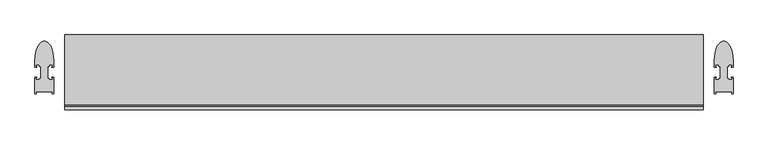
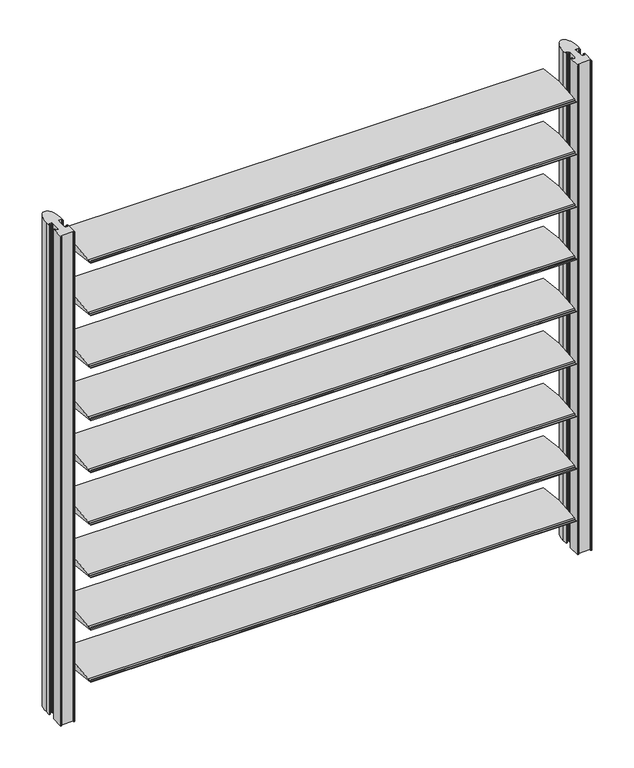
"""IFC4 building model written with IfcOpenShell, lengths in millimetres: proxy geometry, FSB_horizotal : FSB_horizotal_220."""

from ifc_helpers import new_model, si_unit, point, frame, frame_2d, origin, place, context, project, spatial, polyline, circle_curve, ellipse_curve, trimmed, segment, composite_curve, outline, extrude, source, transform, mapped, element, save
from ifc_brep_helpers import plane_surface, cylinder_surface, extruded_surface, advanced_brep


def generic_models_11b92442(model_context):
    return source(origin(), model_context, "Body", "SolidModel", [
        extrude(outline(composite_curve([segment(polyline([(-100.4881689, 176.846461), (-100.0769109, 178.7090621)]), True, "CONTINUOUS"), segment(trimmed(circle_curve(frame_2d((-95.1949955, 177.6311465)), 4.9995), [point((-100.0769109, 178.7090621))], [point((-96.1061666, 182.5469138))], False, "CARTESIAN"), True, "CONTINUOUS"), segment(trimmed(circle_curve(frame_2d((-2.31e-05, -335.9456199)), 527.3242819), [point((-96.1061666, 182.5469138))], [point((110.0445588, 179.7685338))], False, "CARTESIAN"), True, "CONTINUOUS"), segment(polyline([(110.0445588, 179.7685338), (109.5056968, 177.3280097)]), True, "CONTINUOUS"), segment(trimmed(circle_curve(frame_2d((0.6886, -337.0113999)), 525.7244419), [point((109.5056968, 177.3280097))], [point((100.4881227, 179.153539))], True, "CARTESIAN"), True, "CONTINUOUS"), segment(polyline([(100.4881227, 179.153539), (100.0768648, 177.2909379)]), True, "CONTINUOUS"), segment(trimmed(circle_curve(frame_2d((95.1949494, 178.3688535)), 4.9995), [point((100.0768648, 177.2909379))], [point((96.1061205, 173.4530862))], False, "CARTESIAN"), True, "CONTINUOUS"), segment(trimmed(circle_curve(frame_2d((-2.31e-05, 691.9456199)), 527.3242819), [point((96.1061205, 173.4530862))], [point((-110.044605, 176.2314662))], False, "CARTESIAN"), True, "CONTINUOUS"), segment(polyline([(-110.044605, 176.2314662), (-109.505743, 178.6719903)]), True, "CONTINUOUS"), segment(trimmed(circle_curve(frame_2d((-0.6886462, 693.0113999)), 525.7244419), [point((-109.505743, 178.6719903))], [point((-100.4881689, 176.846461))], True, "CARTESIAN"), True, "CONTINUOUS")], self_intersect=False)), frame((-939.5, 0.0, 0.0), z_axis=(1.0, 0.0, 0.0), x_axis=(0.0, 1.0, 0.0)), (0.0, 0.0, 1.0), 1879.0),
        extrude(outline(composite_curve([segment(polyline([(-100.4881689, 390.846461), (-100.0769109, 392.7090621)]), True, "CONTINUOUS"), segment(trimmed(circle_curve(frame_2d((-95.1949955, 391.6311465)), 4.9995), [point((-100.0769109, 392.7090621))], [point((-96.1061666, 396.5469138))], False, "CARTESIAN"), True, "CONTINUOUS"), segment(trimmed(circle_curve(frame_2d((-2.31e-05, -121.9456199)), 527.3242819), [point((-96.1061666, 396.5469138))], [point((110.0445588, 393.7685338))], False, "CARTESIAN"), True, "CONTINUOUS"), segment(polyline([(110.0445588, 393.7685338), (109.5056968, 391.3280097)]), True, "CONTINUOUS"), segment(trimmed(circle_curve(frame_2d((0.6886, -123.0113999)), 525.7244419), [point((109.5056968, 391.3280097))], [point((100.4881227, 393.153539))], True, "CARTESIAN"), True, "CONTINUOUS"), segment(polyline([(100.4881227, 393.153539), (100.0768648, 391.2909379)]), True, "CONTINUOUS"), segment(trimmed(circle_curve(frame_2d((95.1949494, 392.3688535)), 4.9995), [point((100.0768648, 391.2909379))], [point((96.1061205, 387.4530862))], False, "CARTESIAN"), True, "CONTINUOUS"), segment(trimmed(circle_curve(frame_2d((-2.31e-05, 905.9456199)), 527.3242819), [point((96.1061205, 387.4530862))], [point((-110.044605, 390.2314662))], False, "CARTESIAN"), True, "CONTINUOUS"), segment(polyline([(-110.044605, 390.2314662), (-109.505743, 392.6719903)]), True, "CONTINUOUS"), segment(trimmed(circle_curve(frame_2d((-0.6886462, 907.0113999)), 525.7244419), [point((-109.505743, 392.6719903))], [point((-100.4881689, 390.846461))], True, "CARTESIAN"), True, "CONTINUOUS")], self_intersect=False)), frame((-939.5, 0.0, 0.0), z_axis=(1.0, 0.0, 0.0), x_axis=(0.0, 1.0, 0.0)), (0.0, 0.0, 1.0), 1879.0),
        extrude(outline(composite_curve([segment(polyline([(-100.4881689, 604.846461), (-100.0769109, 606.7090621)]), True, "CONTINUOUS"), segment(trimmed(circle_curve(frame_2d((-95.1949955, 605.6311465)), 4.9995), [point((-100.0769109, 606.7090621))], [point((-96.1061666, 610.5469138))], False, "CARTESIAN"), True, "CONTINUOUS"), segment(trimmed(circle_curve(frame_2d((-2.31e-05, 92.0543801)), 527.3242819), [point((-96.1061666, 610.5469138))], [point((110.0445588, 607.7685338))], False, "CARTESIAN"), True, "CONTINUOUS"), segment(polyline([(110.0445588, 607.7685338), (109.5056968, 605.3280097)]), True, "CONTINUOUS"), segment(trimmed(circle_curve(frame_2d((0.6886, 90.9886001)), 525.7244419), [point((109.5056968, 605.3280097))], [point((100.4881227, 607.153539))], True, "CARTESIAN"), True, "CONTINUOUS"), segment(polyline([(100.4881227, 607.153539), (100.0768648, 605.2909379)]), True, "CONTINUOUS"), segment(trimmed(circle_curve(frame_2d((95.1949494, 606.3688535)), 4.9995), [point((100.0768648, 605.2909379))], [point((96.1061205, 601.4530862))], False, "CARTESIAN"), True, "CONTINUOUS"), segment(trimmed(circle_curve(frame_2d((-2.31e-05, 1119.9456199)), 527.3242819), [point((96.1061205, 601.4530862))], [point((-110.044605, 604.2314662))], False, "CARTESIAN"), True, "CONTINUOUS"), segment(polyline([(-110.044605, 604.2314662), (-109.505743, 606.6719903)]), True, "CONTINUOUS"), segment(trimmed(circle_curve(frame_2d((-0.6886462, 1121.0113999)), 525.7244419), [point((-109.505743, 606.6719903))], [point((-100.4881689, 604.846461))], True, "CARTESIAN"), True, "CONTINUOUS")], self_intersect=False)), frame((-939.5, 0.0, 0.0), z_axis=(1.0, 0.0, 0.0), x_axis=(0.0, 1.0, 0.0)), (0.0, 0.0, 1.0), 1879.0),
        extrude(outline(composite_curve([segment(polyline([(-100.4881689, 818.846461), (-100.0769109, 820.7090621)]), True, "CONTINUOUS"), segment(trimmed(circle_curve(frame_2d((-95.1949955, 819.6311465)), 4.9995), [point((-100.0769109, 820.7090621))], [point((-96.1061666, 824.5469138))], False, "CARTESIAN"), True, "CONTINUOUS"), segment(trimmed(circle_curve(frame_2d((-2.31e-05, 306.0543801)), 527.3242819), [point((-96.1061666, 824.5469138))], [point((110.0445588, 821.7685338))], False, "CARTESIAN"), True, "CONTINUOUS"), segment(polyline([(110.0445588, 821.7685338), (109.5056968, 819.3280097)]), True, "CONTINUOUS"), segment(trimmed(circle_curve(frame_2d((0.6886, 304.9886001)), 525.7244419), [point((109.5056968, 819.3280097))], [point((100.4881227, 821.153539))], True, "CARTESIAN"), True, "CONTINUOUS"), segment(polyline([(100.4881227, 821.153539), (100.0768648, 819.2909379)]), True, "CONTINUOUS"), segment(trimmed(circle_curve(frame_2d((95.1949494, 820.3688535)), 4.9995), [point((100.0768648, 819.2909379))], [point((96.1061205, 815.4530862))], False, "CARTESIAN"), True, "CONTINUOUS"), segment(trimmed(circle_curve(frame_2d((-2.31e-05, 1333.9456199)), 527.3242819), [point((96.1061205, 815.4530862))], [point((-110.044605, 818.2314662))], False, "CARTESIAN"), True, "CONTINUOUS"), segment(polyline([(-110.044605, 818.2314662), (-109.505743, 820.6719903)]), True, "CONTINUOUS"), segment(trimmed(circle_curve(frame_2d((-0.6886462, 1335.0113999)), 525.7244419), [point((-109.505743, 820.6719903))], [point((-100.4881689, 818.846461))], True, "CARTESIAN"), True, "CONTINUOUS")], self_intersect=False)), frame((-939.5, 0.0, 0.0), z_axis=(1.0, 0.0, 0.0), x_axis=(0.0, 1.0, 0.0)), (0.0, 0.0, 1.0), 1879.0),
        extrude(outline(composite_curve([segment(polyline([(-100.4881689, 1032.846461), (-100.0769109, 1034.7090621)]), True, "CONTINUOUS"), segment(trimmed(circle_curve(frame_2d((-95.1949955, 1033.6311465)), 4.9995), [point((-100.0769109, 1034.7090621))], [point((-96.1061666, 1038.5469138))], False, "CARTESIAN"), True, "CONTINUOUS"), segment(trimmed(circle_curve(frame_2d((-2.31e-05, 520.0543801)), 527.3242819), [point((-96.1061666, 1038.5469138))], [point((110.0445588, 1035.7685338))], False, "CARTESIAN"), True, "CONTINUOUS"), segment(polyline([(110.0445588, 1035.7685338), (109.5056968, 1033.3280097)]), True, "CONTINUOUS"), segment(trimmed(circle_curve(frame_2d((0.6886, 518.9886001)), 525.7244419), [point((109.5056968, 1033.3280097))], [point((100.4881227, 1035.153539))], True, "CARTESIAN"), True, "CONTINUOUS"), segment(polyline([(100.4881227, 1035.153539), (100.0768648, 1033.2909379)]), True, "CONTINUOUS"), segment(trimmed(circle_curve(frame_2d((95.1949494, 1034.3688535)), 4.9995), [point((100.0768648, 1033.2909379))], [point((96.1061205, 1029.4530862))], False, "CARTESIAN"), True, "CONTINUOUS"), segment(trimmed(circle_curve(frame_2d((-2.31e-05, 1547.9456199)), 527.3242819), [point((96.1061205, 1029.4530862))], [point((-110.044605, 1032.2314662))], False, "CARTESIAN"), True, "CONTINUOUS"), segment(polyline([(-110.044605, 1032.2314662), (-109.505743, 1034.6719903)]), True, "CONTINUOUS"), segment(trimmed(circle_curve(frame_2d((-0.6886462, 1549.0113999)), 525.7244419), [point((-109.505743, 1034.6719903))], [point((-100.4881689, 1032.846461))], True, "CARTESIAN"), True, "CONTINUOUS")], self_intersect=False)), frame((-939.5, 0.0, 0.0), z_axis=(1.0, 0.0, 0.0), x_axis=(0.0, 1.0, 0.0)), (0.0, 0.0, 1.0), 1879.0),
        extrude(outline(composite_curve([segment(polyline([(-100.4881689, 1246.846461), (-100.0769109, 1248.7090621)]), True, "CONTINUOUS"), segment(trimmed(circle_curve(frame_2d((-95.1949955, 1247.6311465)), 4.9995), [point((-100.0769109, 1248.7090621))], [point((-96.1061666, 1252.5469138))], False, "CARTESIAN"), True, "CONTINUOUS"), segment(trimmed(circle_curve(frame_2d((-2.31e-05, 734.0543801)), 527.3242819), [point((-96.1061666, 1252.5469138))], [point((110.0445588, 1249.7685338))], False, "CARTESIAN"), True, "CONTINUOUS"), segment(polyline([(110.0445588, 1249.7685338), (109.5056968, 1247.3280097)]), True, "CONTINUOUS"), segment(trimmed(circle_curve(frame_2d((0.6886, 732.9886001)), 525.7244419), [point((109.5056968, 1247.3280097))], [point((100.4881227, 1249.153539))], True, "CARTESIAN"), True, "CONTINUOUS"), segment(polyline([(100.4881227, 1249.153539), (100.0768648, 1247.2909379)]), True, "CONTINUOUS"), segment(trimmed(circle_curve(frame_2d((95.1949494, 1248.3688535)), 4.9995), [point((100.0768648, 1247.2909379))], [point((96.1061205, 1243.4530862))], False, "CARTESIAN"), True, "CONTINUOUS"), segment(trimmed(circle_curve(frame_2d((-2.31e-05, 1761.9456199)), 527.3242819), [point((96.1061205, 1243.4530862))], [point((-110.044605, 1246.2314662))], False, "CARTESIAN"), True, "CONTINUOUS"), segment(polyline([(-110.044605, 1246.2314662), (-109.505743, 1248.6719903)]), True, "CONTINUOUS"), segment(trimmed(circle_curve(frame_2d((-0.6886462, 1763.0113999)), 525.7244419), [point((-109.505743, 1248.6719903))], [point((-100.4881689, 1246.846461))], True, "CARTESIAN"), True, "CONTINUOUS")], self_intersect=False)), frame((-939.5, 0.0, 0.0), z_axis=(1.0, 0.0, 0.0), x_axis=(0.0, 1.0, 0.0)), (0.0, 0.0, 1.0), 1879.0),
        extrude(outline(composite_curve([segment(polyline([(-100.4881689, 1460.846461), (-100.0769109, 1462.7090621)]), True, "CONTINUOUS"), segment(trimmed(circle_curve(frame_2d((-95.1949955, 1461.6311465)), 4.9995), [point((-100.0769109, 1462.7090621))], [point((-96.1061666, 1466.5469138))], False, "CARTESIAN"), True, "CONTINUOUS"), segment(trimmed(circle_curve(frame_2d((-2.31e-05, 948.0543801)), 527.3242819), [point((-96.1061666, 1466.5469138))], [point((110.0445588, 1463.7685338))], False, "CARTESIAN"), True, "CONTINUOUS"), segment(polyline([(110.0445588, 1463.7685338), (109.5056968, 1461.3280097)]), True, "CONTINUOUS"), segment(trimmed(circle_curve(frame_2d((0.6886, 946.9886001)), 525.7244419), [point((109.5056968, 1461.3280097))], [point((100.4881227, 1463.153539))], True, "CARTESIAN"), True, "CONTINUOUS"), segment(polyline([(100.4881227, 1463.153539), (100.0768648, 1461.2909379)]), True, "CONTINUOUS"), segment(trimmed(circle_curve(frame_2d((95.1949494, 1462.3688535)), 4.9995), [point((100.0768648, 1461.2909379))], [point((96.1061205, 1457.4530862))], False, "CARTESIAN"), True, "CONTINUOUS"), segment(trimmed(circle_curve(frame_2d((-2.31e-05, 1975.9456199)), 527.3242819), [point((96.1061205, 1457.4530862))], [point((-110.044605, 1460.2314662))], False, "CARTESIAN"), True, "CONTINUOUS"), segment(polyline([(-110.044605, 1460.2314662), (-109.505743, 1462.6719903)]), True, "CONTINUOUS"), segment(trimmed(circle_curve(frame_2d((-0.6886462, 1977.0113999)), 525.7244419), [point((-109.505743, 1462.6719903))], [point((-100.4881689, 1460.846461))], True, "CARTESIAN"), True, "CONTINUOUS")], self_intersect=False)), frame((-939.5, 0.0, 0.0), z_axis=(1.0, 0.0, 0.0), x_axis=(0.0, 1.0, 0.0)), (0.0, 0.0, 1.0), 1879.0),
        extrude(outline(composite_curve([segment(polyline([(-100.4881689, 1674.846461), (-100.0769109, 1676.7090621)]), True, "CONTINUOUS"), segment(trimmed(circle_curve(frame_2d((-95.1949955, 1675.6311465)), 4.9995), [point((-100.0769109, 1676.7090621))], [point((-96.1061666, 1680.5469138))], False, "CARTESIAN"), True, "CONTINUOUS"), segment(trimmed(circle_curve(frame_2d((-2.31e-05, 1162.0543801)), 527.3242819), [point((-96.1061666, 1680.5469138))], [point((110.0445588, 1677.7685338))], False, "CARTESIAN"), True, "CONTINUOUS"), segment(polyline([(110.0445588, 1677.7685338), (109.5056968, 1675.3280097)]), True, "CONTINUOUS"), segment(trimmed(circle_curve(frame_2d((0.6886, 1160.9886001)), 525.7244419), [point((109.5056968, 1675.3280097))], [point((100.4881227, 1677.153539))], True, "CARTESIAN"), True, "CONTINUOUS"), segment(polyline([(100.4881227, 1677.153539), (100.0768648, 1675.2909379)]), True, "CONTINUOUS"), segment(trimmed(circle_curve(frame_2d((95.1949494, 1676.3688535)), 4.9995), [point((100.0768648, 1675.2909379))], [point((96.1061205, 1671.4530862))], False, "CARTESIAN"), True, "CONTINUOUS"), segment(trimmed(circle_curve(frame_2d((-2.31e-05, 2189.9456199)), 527.3242819), [point((96.1061205, 1671.4530862))], [point((-110.044605, 1674.2314662))], False, "CARTESIAN"), True, "CONTINUOUS"), segment(polyline([(-110.044605, 1674.2314662), (-109.505743, 1676.6719903)]), True, "CONTINUOUS"), segment(trimmed(circle_curve(frame_2d((-0.6886462, 2191.0113999)), 525.7244419), [point((-109.505743, 1676.6719903))], [point((-100.4881689, 1674.846461))], True, "CARTESIAN"), True, "CONTINUOUS")], self_intersect=False)), frame((-939.5, 0.0, 0.0), z_axis=(1.0, 0.0, 0.0), x_axis=(0.0, 1.0, 0.0)), (0.0, 0.0, 1.0), 1879.0),
        extrude(outline(composite_curve([segment(polyline([(-100.4881689, 1888.846461), (-100.0769109, 1890.7090621)]), True, "CONTINUOUS"), segment(trimmed(circle_curve(frame_2d((-95.1949955, 1889.6311465)), 4.9995), [point((-100.0769109, 1890.7090621))], [point((-96.1061666, 1894.5469138))], False, "CARTESIAN"), True, "CONTINUOUS"), segment(trimmed(circle_curve(frame_2d((-2.31e-05, 1376.0543801)), 527.3242819), [point((-96.1061666, 1894.5469138))], [point((110.0445588, 1891.7685338))], False, "CARTESIAN"), True, "CONTINUOUS"), segment(polyline([(110.0445588, 1891.7685338), (109.5056968, 1889.3280097)]), True, "CONTINUOUS"), segment(trimmed(circle_curve(frame_2d((0.6886, 1374.9886001)), 525.7244419), [point((109.5056968, 1889.3280097))], [point((100.4881227, 1891.153539))], True, "CARTESIAN"), True, "CONTINUOUS"), segment(polyline([(100.4881227, 1891.153539), (100.0768648, 1889.2909379)]), True, "CONTINUOUS"), segment(trimmed(circle_curve(frame_2d((95.1949494, 1890.3688535)), 4.9995), [point((100.0768648, 1889.2909379))], [point((96.1061205, 1885.4530862))], False, "CARTESIAN"), True, "CONTINUOUS"), segment(trimmed(circle_curve(frame_2d((-2.31e-05, 2403.9456199)), 527.3242819), [point((96.1061205, 1885.4530862))], [point((-110.044605, 1888.2314662))], False, "CARTESIAN"), True, "CONTINUOUS"), segment(polyline([(-110.044605, 1888.2314662), (-109.505743, 1890.6719903)]), True, "CONTINUOUS"), segment(trimmed(circle_curve(frame_2d((-0.6886462, 2405.0113999)), 525.7244419), [point((-109.505743, 1890.6719903))], [point((-100.4881689, 1888.846461))], True, "CARTESIAN"), True, "CONTINUOUS")], self_intersect=False)), frame((-939.5, 0.0, 0.0), z_axis=(1.0, 0.0, 0.0), x_axis=(0.0, 1.0, 0.0)), (0.0, 0.0, 1.0), 1879.0),
        advanced_brep(
        [(972.5005731, 35.515, 0.0), (1027.5000975, 35.515, 0.0), (1027.5000975, 14.55, 0.0), (1022.4, 14.55, 0.0), (1022.4, 16.55, 0.0), (1024.5000975, 16.55, 0.0), (1025.5000975, 17.55, 0.0), (1025.5000975, 22.175, 0.0), (1014.05, 22.175, 0.0), (1014.05, 18.5225, 0.0), (1011.0, 18.5225, 0.0), (1011.0, -18.5225, 0.0), (1014.05, -18.5225, 0.0), (1014.05, -22.175, 0.0), (1025.3000975, -22.175, 0.0), (1025.3000975, -17.55, 0.0), (1024.3000975, -16.55, 0.0), (1022.4, -16.55, 0.0), (1022.4, -14.55, 0.0), (1027.5000975, -14.55, 0.0), (1027.5000975, -63.0727525, 0.0), (1024.0000975, -63.0727525, 0.0), (1023.0000975, -62.0727525, 0.0), (1023.0000975, -60.5727525, 0.0), (1025.0000975, -60.5727525, 0.0), (1025.0000975, -57.5727525, 0.0), (974.9999025, -57.5727525, 0.0), (974.9999025, -60.5727525, 0.0), (976.9999025, -60.5727525, 0.0), (976.9999025, -62.0727525, 0.0), (975.9999025, -63.0727525, 0.0), (972.4999025, -63.0727525, 0.0), (972.4999025, -14.55, 0.0), (977.6, -14.55, 0.0), (977.6, -16.55, 0.0), (975.6999025, -16.55, 0.0), (974.6999025, -17.55, 0.0), (974.6999025, -22.175, 0.0), (985.95, -22.175, 0.0), (985.95, -18.5225, 0.0), (989.0, -18.5225, 0.0), (989.0, 18.5225, 0.0), (985.95, 18.5225, 0.0), (985.95, 22.175, 0.0), (974.4999025, 22.175, 0.0), (974.4999025, 17.55, 0.0), (975.4999025, 16.55, 0.0), (977.6, 16.55, 0.0), (977.6, 14.55, 0.0), (972.5005731, 14.55, 0.0), (972.5005731, 35.515, 2000.0), (972.5005731, 14.55, 2000.0), (977.6, 14.55, 2000.0), (977.6, 16.55, 2000.0), (975.4999025, 16.55, 2000.0), (974.4999025, 17.55, 2000.0), (974.4999025, 22.175, 2000.0), (985.95, 22.175, 2000.0), (985.95, 18.5225, 2000.0), (989.0, 18.5225, 2000.0), (989.0, -18.5225, 2000.0), (985.95, -18.5225, 2000.0), (985.95, -22.175, 2000.0), (974.6999025, -22.175, 2000.0), (974.6999025, -17.55, 2000.0), (975.6999025, -16.55, 2000.0), (977.6, -16.55, 2000.0), (977.6, -14.55, 2000.0), (972.4999025, -14.55, 2000.0), (972.4999025, -63.0727525, 2000.0), (975.9999025, -63.0727525, 2000.0), (976.9999025, -62.0727525, 2000.0), (976.9999025, -60.5727525, 2000.0), (974.9999025, -60.5727525, 2000.0), (974.9999025, -57.5727525, 2000.0), (1025.0000975, -57.5727525, 2000.0), (1025.0000975, -60.5727525, 2000.0), (1023.0000975, -60.5727525, 2000.0), (1023.0000975, -62.0727525, 2000.0), (1024.0000975, -63.0727525, 2000.0), (1027.5000975, -63.0727525, 2000.0), (1027.5000975, -14.55, 2000.0), (1022.4, -14.55, 2000.0), (1022.4, -16.55, 2000.0), (1024.3000975, -16.55, 2000.0), (1025.3000975, -17.55, 2000.0), (1025.3000975, -22.175, 2000.0), (1014.05, -22.175, 2000.0), (1014.05, -18.5225, 2000.0), (1011.0, -18.5225, 2000.0), (1011.0, 18.5225, 2000.0), (1014.05, 18.5225, 2000.0), (1014.05, 22.175, 2000.0), (1025.5000975, 22.175, 2000.0), (1025.5000975, 17.55, 2000.0), (1024.5000975, 16.55, 2000.0), (1022.4, 16.55, 2000.0), (1022.4, 14.55, 2000.0), (1027.5000975, 14.55, 2000.0), (1027.5000975, 35.515, 2000.0)],
        [
            (0, 1, ellipse_curve(frame((1000.0003353, 35.515, 0.0), z_axis=(0.0, 0.0, -1.0), x_axis=(0.0, 1.0, 0.0)), 56.4122475, 27.4997622)),
            (1, 2),
            (2, 3),
            (3, 4),
            (4, 5),
            (5, 6),
            (6, 7),
            (7, 8),
            (8, 9),
            (9, 10),
            (10, 11),
            (11, 12),
            (12, 13),
            (13, 14),
            (14, 15),
            (15, 16),
            (16, 17),
            (17, 18),
            (18, 19),
            (19, 20),
            (20, 21),
            (21, 22, circle_curve(frame((1024.0000975, -62.0727525, 0.0), z_axis=(0.0, 0.0, -1.0), x_axis=(-1.0, 0.0, 0.0)), 1.0)),
            (22, 23),
            (23, 24),
            (24, 25),
            (25, 26),
            (26, 27),
            (27, 28),
            (28, 29),
            (29, 30, circle_curve(frame((975.9999025, -62.0727525, 0.0), z_axis=(0.0, 0.0, -1.0), x_axis=(0.0, -1.0, 0.0)), 1.0)),
            (30, 31),
            (31, 32),
            (32, 33),
            (33, 34),
            (34, 35),
            (35, 36),
            (36, 37),
            (37, 38),
            (38, 39),
            (39, 40),
            (40, 41),
            (41, 42),
            (42, 43),
            (43, 44),
            (44, 45),
            (45, 46),
            (46, 47),
            (47, 48),
            (48, 49),
            (49, 0),
            (50, 51),
            (51, 52),
            (52, 53),
            (53, 54),
            (54, 55),
            (55, 56),
            (56, 57),
            (57, 58),
            (58, 59),
            (59, 60),
            (60, 61),
            (61, 62),
            (62, 63),
            (63, 64),
            (64, 65),
            (65, 66),
            (66, 67),
            (67, 68),
            (68, 69),
            (69, 70),
            (70, 71, circle_curve(frame((975.9999025, -62.0727525, 2000.0), z_axis=(0.0, 0.0, 1.0), x_axis=(0.0, -1.0, 0.0)), 1.0)),
            (71, 72),
            (72, 73),
            (73, 74),
            (74, 75),
            (75, 76),
            (76, 77),
            (77, 78),
            (78, 79, circle_curve(frame((1024.0000975, -62.0727525, 2000.0), z_axis=(0.0, 0.0, 1.0), x_axis=(-1.0, 0.0, 0.0)), 1.0)),
            (79, 80),
            (80, 81),
            (81, 82),
            (82, 83),
            (83, 84),
            (84, 85),
            (85, 86),
            (86, 87),
            (87, 88),
            (88, 89),
            (89, 90),
            (90, 91),
            (91, 92),
            (92, 93),
            (93, 94),
            (94, 95),
            (95, 96),
            (96, 97),
            (97, 98),
            (98, 99),
            (99, 50, ellipse_curve(frame((1000.0003353, 35.515, 2000.0), z_axis=(0.0, 0.0, 1.0), x_axis=(0.0, 1.0, 0.0)), 56.4122475, 27.4997622)),
            (0, 50),
            (99, 1),
            (98, 2),
            (97, 3),
            (96, 4),
            (95, 5),
            (94, 6),
            (93, 7),
            (92, 8),
            (91, 9),
            (90, 10),
            (89, 11),
            (88, 12),
            (87, 13),
            (86, 14),
            (85, 15),
            (84, 16),
            (83, 17),
            (82, 18),
            (81, 19),
            (80, 20),
            (79, 21),
            (78, 22),
            (77, 23),
            (76, 24),
            (75, 25),
            (74, 26),
            (73, 27),
            (72, 28),
            (71, 29),
            (70, 30),
            (69, 31),
            (68, 32),
            (67, 33),
            (66, 34),
            (65, 35),
            (64, 36),
            (63, 37),
            (62, 38),
            (61, 39),
            (60, 40),
            (59, 41),
            (58, 42),
            (57, 43),
            (56, 44),
            (55, 45),
            (54, 46),
            (53, 47),
            (52, 48),
            (51, 49),
        ],
        [
            plane_surface(frame((1000.0, 0.0, 0.0), z_axis=(0.0, 0.0, -1.0), x_axis=(0.0, -1.0, 0.0))),
            plane_surface(frame((1000.0, 0.0, 2000.0), z_axis=(0.0, 0.0, 1.0), x_axis=(0.0, -1.0, 0.0))),
            extruded_surface(trimmed(ellipse_curve(frame((1000.0003353, 35.515, 2000.0), z_axis=(0.0, 0.0, -1.0), x_axis=(0.0, 1.0, 0.0)), 56.4122475, 27.4997622), [point((972.5005731, 35.515, 2000.0))], [point((1027.5000975, 35.515, 2000.0))], True, "CARTESIAN"), (0.0, 0.0, -2000.0), 2000.0),
            plane_surface(frame((1027.5000975, 35.515, 0.0), z_axis=(1.0, 0.0, 0.0), x_axis=(0.0, 0.0, 1.0))),
            plane_surface(frame((1027.5000975, 14.55, 0.0), z_axis=(0.0, -1.0, 0.0), x_axis=(0.0, 0.0, 1.0))),
            plane_surface(frame((1022.4, 14.55, 0.0), z_axis=(-1.0, 0.0, 0.0), x_axis=(0.0, 0.0, 1.0))),
            plane_surface(frame((1022.4, 16.55, 0.0), z_axis=(0.0, 1.0, 0.0), x_axis=(0.0, 0.0, 1.0))),
            plane_surface(frame((1024.5000975, 16.55, 0.0), z_axis=(-0.707106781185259, 0.707106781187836, 0.0), x_axis=(0.0, 0.0, 1.0))),
            plane_surface(frame((1025.5000975, 17.55, 0.0), z_axis=(-1.0, 0.0, 0.0), x_axis=(0.0, 0.0, 1.0))),
            plane_surface(frame((1025.5000975, 22.175, 0.0), z_axis=(0.0, -1.0, 0.0), x_axis=(0.0, 0.0, 1.0))),
            plane_surface(frame((1014.05, 22.175, 0.0), z_axis=(1.0, 0.0, 0.0), x_axis=(0.0, 0.0, 1.0))),
            plane_surface(frame((1014.05, 18.5225, 0.0), z_axis=(0.0, -1.0, 0.0), x_axis=(0.0, 0.0, 1.0))),
            plane_surface(frame((1011.0, 18.5225, 0.0), z_axis=(1.0, 0.0, 0.0), x_axis=(0.0, 0.0, 1.0))),
            plane_surface(frame((1011.0, -18.5225, 0.0), z_axis=(0.0, 1.0, 0.0), x_axis=(0.0, 0.0, 1.0))),
            plane_surface(frame((1014.05, -18.5225, 0.0), z_axis=(1.0, 0.0, 0.0), x_axis=(0.0, 0.0, 1.0))),
            plane_surface(frame((1014.05, -22.175, 0.0), z_axis=(0.0, 1.0, 0.0), x_axis=(0.0, 0.0, 1.0))),
            plane_surface(frame((1025.3000975, -22.175, 0.0), z_axis=(-1.0, 0.0, 0.0), x_axis=(0.0, 0.0, 1.0))),
            plane_surface(frame((1025.3000975, -17.55, 0.0), z_axis=(-0.7071067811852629, -0.7071067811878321, 0.0), x_axis=(0.0, 0.0, 1.0))),
            plane_surface(frame((1024.3000975, -16.55, 0.0), z_axis=(0.0, -1.0, 0.0), x_axis=(0.0, 0.0, 1.0))),
            plane_surface(frame((1022.4, -16.55, 0.0), z_axis=(-1.0, 0.0, 0.0), x_axis=(0.0, 0.0, 1.0))),
            plane_surface(frame((1022.4, -14.55, 0.0), z_axis=(0.0, 1.0, 0.0), x_axis=(0.0, 0.0, 1.0))),
            plane_surface(frame((1027.5000975, -14.55, 0.0), z_axis=(1.0, 0.0, 0.0), x_axis=(0.0, 0.0, 1.0))),
            plane_surface(frame((1027.5000975, -63.0727525, 0.0), z_axis=(0.0, -1.0, 0.0), x_axis=(0.0, 0.0, 1.0))),
            cylinder_surface(frame((1024.0000975, -62.0727525, 0.0), z_axis=(0.0, 0.0, -1.0), x_axis=(-1.0, 0.0, 0.0)), 1.0),
            plane_surface(frame((1023.0000975, -62.0727525, 0.0), z_axis=(-1.0, 0.0, 0.0), x_axis=(0.0, 0.0, 1.0))),
            plane_surface(frame((1023.0000975, -60.5727525, 0.0), z_axis=(0.0, 1.0, 0.0), x_axis=(0.0, 0.0, 1.0))),
            plane_surface(frame((1025.0000975, -60.5727525, 0.0), z_axis=(-1.0, 0.0, 0.0), x_axis=(0.0, 0.0, 1.0))),
            plane_surface(frame((1025.0000975, -57.5727525, 0.0), z_axis=(0.0, -1.0, 0.0), x_axis=(0.0, 0.0, 1.0))),
            plane_surface(frame((974.9999025, -57.5727525, 0.0), z_axis=(1.0, 0.0, 0.0), x_axis=(0.0, 0.0, 1.0))),
            plane_surface(frame((974.9999025, -60.5727525, 0.0), z_axis=(0.0, 1.0, 0.0), x_axis=(0.0, 0.0, 1.0))),
            plane_surface(frame((976.9999025, -60.5727525, 0.0), z_axis=(1.0, 0.0, 0.0), x_axis=(0.0, 0.0, 1.0))),
            cylinder_surface(frame((975.9999025, -62.0727525, 0.0), z_axis=(0.0, 0.0, -1.0), x_axis=(0.0, -1.0, 0.0)), 1.0),
            plane_surface(frame((975.9999025, -63.0727525, 0.0), z_axis=(0.0, -1.0, 0.0), x_axis=(0.0, 0.0, 1.0))),
            plane_surface(frame((972.4999025, -63.0727525, 0.0), z_axis=(-1.0, 0.0, 0.0), x_axis=(0.0, 0.0, 1.0))),
            plane_surface(frame((972.4999025, -14.55, 0.0), z_axis=(0.0, 1.0, 0.0), x_axis=(0.0, 0.0, 1.0))),
            plane_surface(frame((977.6, -14.55, 0.0), z_axis=(1.0, 0.0, 0.0), x_axis=(0.0, 0.0, 1.0))),
            plane_surface(frame((977.6, -16.55, 0.0), z_axis=(0.0, -1.0, 0.0), x_axis=(0.0, 0.0, 1.0))),
            plane_surface(frame((975.6999025, -16.55, 0.0), z_axis=(0.7071067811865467, -0.7071067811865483, 0.0), x_axis=(0.0, 0.0, 1.0))),
            plane_surface(frame((974.6999025, -17.55, 0.0), z_axis=(1.0, 0.0, 0.0), x_axis=(0.0, 0.0, 1.0))),
            plane_surface(frame((974.6999025, -22.175, 0.0), z_axis=(0.0, 1.0, 0.0), x_axis=(0.0, 0.0, 1.0))),
            plane_surface(frame((985.95, -22.175, 0.0), z_axis=(-1.0, 0.0, 0.0), x_axis=(0.0, 0.0, 1.0))),
            plane_surface(frame((985.95, -18.5225, 0.0), z_axis=(0.0, 1.0, 0.0), x_axis=(0.0, 0.0, 1.0))),
            plane_surface(frame((989.0, -18.5225, 0.0), z_axis=(-1.0, 0.0, 0.0), x_axis=(0.0, 0.0, 1.0))),
            plane_surface(frame((989.0, 18.5225, 0.0), z_axis=(0.0, -1.0, 0.0), x_axis=(0.0, 0.0, 1.0))),
            plane_surface(frame((985.95, 18.5225, 0.0), z_axis=(-1.0, 0.0, 0.0), x_axis=(0.0, 0.0, 1.0))),
            plane_surface(frame((985.95, 22.175, 0.0), z_axis=(0.0, -1.0, 0.0), x_axis=(0.0, 0.0, 1.0))),
            plane_surface(frame((974.4999025, 22.175, 0.0), z_axis=(1.0, 0.0, 0.0), x_axis=(0.0, 0.0, 1.0))),
            plane_surface(frame((974.4999025, 17.55, 0.0), z_axis=(0.7071067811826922, 0.7071067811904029, 0.0), x_axis=(0.0, 0.0, 1.0))),
            plane_surface(frame((975.4999025, 16.55, 0.0), z_axis=(0.0, 1.0, 0.0), x_axis=(0.0, 0.0, 1.0))),
            plane_surface(frame((977.6, 16.55, 0.0), z_axis=(1.0, 0.0, 0.0), x_axis=(0.0, 0.0, 1.0))),
            plane_surface(frame((977.6, 14.55, 0.0), z_axis=(0.0, -1.0, 0.0), x_axis=(0.0, 0.0, 1.0))),
            plane_surface(frame((972.5005731, 14.55, 0.0), z_axis=(-1.0, 0.0, 0.0), x_axis=(0.0, 0.0, 1.0))),
        ],
        [
            (0, [[1, 2, 3, 4, 5, 6, 7, 8, 9, 10, 11, 12, 13, 14, 15, 16, 17, 18, 19, 20, 21, 22, 23, 24, 25, 26, 27, 28, 29, 30, 31, 32, 33, 34, 35, 36, 37, 38, 39, 40, 41, 42, 43, 44, 45, 46, 47, 48, 49, 50]]),
            (1, [[51, 52, 53, 54, 55, 56, 57, 58, 59, 60, 61, 62, 63, 64, 65, 66, 67, 68, 69, 70, 71, 72, 73, 74, 75, 76, 77, 78, 79, 80, 81, 82, 83, 84, 85, 86, 87, 88, 89, 90, 91, 92, 93, 94, 95, 96, 97, 98, 99, 100]]),
            (2, [[-1, 101, -100, 102]]),
            (3, [[-2, -102, -99, 103]]),
            (4, [[-3, -103, -98, 104]]),
            (5, [[-4, -104, -97, 105]]),
            (6, [[-5, -105, -96, 106]]),
            (7, [[-6, -106, -95, 107]]),
            (8, [[-7, -107, -94, 108]]),
            (9, [[-8, -108, -93, 109]]),
            (10, [[-9, -109, -92, 110]]),
            (11, [[-10, -110, -91, 111]]),
            (12, [[-11, -111, -90, 112]]),
            (13, [[-12, -112, -89, 113]]),
            (14, [[-13, -113, -88, 114]]),
            (15, [[-14, -114, -87, 115]]),
            (16, [[-15, -115, -86, 116]]),
            (17, [[-16, -116, -85, 117]]),
            (18, [[-17, -117, -84, 118]]),
            (19, [[-18, -118, -83, 119]]),
            (20, [[-19, -119, -82, 120]]),
            (21, [[-20, -120, -81, 121]]),
            (22, [[-21, -121, -80, 122]]),
            (23, [[-22, -122, -79, 123]]),
            (24, [[-23, -123, -78, 124]]),
            (25, [[-24, -124, -77, 125]]),
            (26, [[-25, -125, -76, 126]]),
            (27, [[-26, -126, -75, 127]]),
            (28, [[-27, -127, -74, 128]]),
            (29, [[-28, -128, -73, 129]]),
            (30, [[-29, -129, -72, 130]]),
            (31, [[-30, -130, -71, 131]]),
            (32, [[-31, -131, -70, 132]]),
            (33, [[-32, -132, -69, 133]]),
            (34, [[-33, -133, -68, 134]]),
            (35, [[-34, -134, -67, 135]]),
            (36, [[-35, -135, -66, 136]]),
            (37, [[-36, -136, -65, 137]]),
            (38, [[-37, -137, -64, 138]]),
            (39, [[-38, -138, -63, 139]]),
            (40, [[-39, -139, -62, 140]]),
            (41, [[-40, -140, -61, 141]]),
            (42, [[-41, -141, -60, 142]]),
            (43, [[-42, -142, -59, 143]]),
            (44, [[-43, -143, -58, 144]]),
            (45, [[-44, -144, -57, 145]]),
            (46, [[-45, -145, -56, 146]]),
            (47, [[-46, -146, -55, 147]]),
            (48, [[-47, -147, -54, 148]]),
            (49, [[-48, -148, -53, 149]]),
            (50, [[-49, -149, -52, 150]]),
            (51, [[-50, -150, -51, -101]]),
        ],
    ),
        advanced_brep(
        [(-1027.4994269, 35.515, 0.0), (-972.4999025, 35.515, 0.0), (-972.4999025, 14.55, 0.0), (-977.6, 14.55, 0.0), (-977.6, 16.55, 0.0), (-975.4999025, 16.55, 0.0), (-974.4999025, 17.55, 0.0), (-974.4999025, 22.175, 0.0), (-985.95, 22.175, 0.0), (-985.95, 18.5225, 0.0), (-989.0, 18.5225, 0.0), (-989.0, -18.5225, 0.0), (-985.95, -18.5225, 0.0), (-985.95, -22.175, 0.0), (-974.6999025, -22.175, 0.0), (-974.6999025, -17.55, 0.0), (-975.6999025, -16.55, 0.0), (-977.6, -16.55, 0.0), (-977.6, -14.55, 0.0), (-972.4999025, -14.55, 0.0), (-972.4999025, -63.0727525, 0.0), (-975.9999025, -63.0727525, 0.0), (-976.9999025, -62.0727525, 0.0), (-976.9999025, -60.5727525, 0.0), (-974.9999025, -60.5727525, 0.0), (-974.9999025, -57.5727525, 0.0), (-1025.0000975, -57.5727525, 0.0), (-1025.0000975, -60.5727525, 0.0), (-1023.0000975, -60.5727525, 0.0), (-1023.0000975, -62.0727525, 0.0), (-1024.0000975, -63.0727525, 0.0), (-1027.5000975, -63.0727525, 0.0), (-1027.5000975, -14.55, 0.0), (-1022.4, -14.55, 0.0), (-1022.4, -16.55, 0.0), (-1024.3000975, -16.55, 0.0), (-1025.3000975, -17.55, 0.0), (-1025.3000975, -22.175, 0.0), (-1014.05, -22.175, 0.0), (-1014.05, -18.5225, 0.0), (-1011.0, -18.5225, 0.0), (-1011.0, 18.5225, 0.0), (-1014.05, 18.5225, 0.0), (-1014.05, 22.175, 0.0), (-1025.5000975, 22.175, 0.0), (-1025.5000975, 17.55, 0.0), (-1024.5000975, 16.55, 0.0), (-1022.4, 16.55, 0.0), (-1022.4, 14.55, 0.0), (-1027.4994269, 14.55, 0.0), (-1027.4994269, 35.515, 2000.0), (-1027.4994269, 14.55, 2000.0), (-1022.4, 14.55, 2000.0), (-1022.4, 16.55, 2000.0), (-1024.5000975, 16.55, 2000.0), (-1025.5000975, 17.55, 2000.0), (-1025.5000975, 22.175, 2000.0), (-1014.05, 22.175, 2000.0), (-1014.05, 18.5225, 2000.0), (-1011.0, 18.5225, 2000.0), (-1011.0, -18.5225, 2000.0), (-1014.05, -18.5225, 2000.0), (-1014.05, -22.175, 2000.0), (-1025.3000975, -22.175, 2000.0), (-1025.3000975, -17.55, 2000.0), (-1024.3000975, -16.55, 2000.0), (-1022.4, -16.55, 2000.0), (-1022.4, -14.55, 2000.0), (-1027.5000975, -14.55, 2000.0), (-1027.5000975, -63.0727525, 2000.0), (-1024.0000975, -63.0727525, 2000.0), (-1023.0000975, -62.0727525, 2000.0), (-1023.0000975, -60.5727525, 2000.0), (-1025.0000975, -60.5727525, 2000.0), (-1025.0000975, -57.5727525, 2000.0), (-974.9999025, -57.5727525, 2000.0), (-974.9999025, -60.5727525, 2000.0), (-976.9999025, -60.5727525, 2000.0), (-976.9999025, -62.0727525, 2000.0), (-975.9999025, -63.0727525, 2000.0), (-972.4999025, -63.0727525, 2000.0), (-972.4999025, -14.55, 2000.0), (-977.6, -14.55, 2000.0), (-977.6, -16.55, 2000.0), (-975.6999025, -16.55, 2000.0), (-974.6999025, -17.55, 2000.0), (-974.6999025, -22.175, 2000.0), (-985.95, -22.175, 2000.0), (-985.95, -18.5225, 2000.0), (-989.0, -18.5225, 2000.0), (-989.0, 18.5225, 2000.0), (-985.95, 18.5225, 2000.0), (-985.95, 22.175, 2000.0), (-974.4999025, 22.175, 2000.0), (-974.4999025, 17.55, 2000.0), (-975.4999025, 16.55, 2000.0), (-977.6, 16.55, 2000.0), (-977.6, 14.55, 2000.0), (-972.4999025, 14.55, 2000.0), (-972.4999025, 35.515, 2000.0)],
        [
            (0, 1, ellipse_curve(frame((-999.9996647, 35.515, 0.0), z_axis=(0.0, 0.0, -1.0), x_axis=(0.0, 1.0, 0.0)), 56.4122475, 27.4997622)),
            (1, 2),
            (2, 3),
            (3, 4),
            (4, 5),
            (5, 6),
            (6, 7),
            (7, 8),
            (8, 9),
            (9, 10),
            (10, 11),
            (11, 12),
            (12, 13),
            (13, 14),
            (14, 15),
            (15, 16),
            (16, 17),
            (17, 18),
            (18, 19),
            (19, 20),
            (20, 21),
            (21, 22, circle_curve(frame((-975.9999025, -62.0727525, 0.0), z_axis=(0.0, 0.0, -1.0), x_axis=(-1.0, 0.0, 0.0)), 1.0)),
            (22, 23),
            (23, 24),
            (24, 25),
            (25, 26),
            (26, 27),
            (27, 28),
            (28, 29),
            (29, 30, circle_curve(frame((-1024.0000975, -62.0727525, 0.0), z_axis=(0.0, 0.0, -1.0), x_axis=(0.0, -1.0, 0.0)), 1.0)),
            (30, 31),
            (31, 32),
            (32, 33),
            (33, 34),
            (34, 35),
            (35, 36),
            (36, 37),
            (37, 38),
            (38, 39),
            (39, 40),
            (40, 41),
            (41, 42),
            (42, 43),
            (43, 44),
            (44, 45),
            (45, 46),
            (46, 47),
            (47, 48),
            (48, 49),
            (49, 0),
            (50, 51),
            (51, 52),
            (52, 53),
            (53, 54),
            (54, 55),
            (55, 56),
            (56, 57),
            (57, 58),
            (58, 59),
            (59, 60),
            (60, 61),
            (61, 62),
            (62, 63),
            (63, 64),
            (64, 65),
            (65, 66),
            (66, 67),
            (67, 68),
            (68, 69),
            (69, 70),
            (70, 71, circle_curve(frame((-1024.0000975, -62.0727525, 2000.0), z_axis=(0.0, 0.0, 1.0), x_axis=(0.0, -1.0, 0.0)), 1.0)),
            (71, 72),
            (72, 73),
            (73, 74),
            (74, 75),
            (75, 76),
            (76, 77),
            (77, 78),
            (78, 79, circle_curve(frame((-975.9999025, -62.0727525, 2000.0), z_axis=(0.0, 0.0, 1.0), x_axis=(-1.0, 0.0, 0.0)), 1.0)),
            (79, 80),
            (80, 81),
            (81, 82),
            (82, 83),
            (83, 84),
            (84, 85),
            (85, 86),
            (86, 87),
            (87, 88),
            (88, 89),
            (89, 90),
            (90, 91),
            (91, 92),
            (92, 93),
            (93, 94),
            (94, 95),
            (95, 96),
            (96, 97),
            (97, 98),
            (98, 99),
            (99, 50, ellipse_curve(frame((-999.9996647, 35.515, 2000.0), z_axis=(0.0, 0.0, 1.0), x_axis=(0.0, 1.0, 0.0)), 56.4122475, 27.4997622)),
            (0, 50),
            (99, 1),
            (98, 2),
            (97, 3),
            (96, 4),
            (95, 5),
            (94, 6),
            (93, 7),
            (92, 8),
            (91, 9),
            (90, 10),
            (89, 11),
            (88, 12),
            (87, 13),
            (86, 14),
            (85, 15),
            (84, 16),
            (83, 17),
            (82, 18),
            (81, 19),
            (80, 20),
            (79, 21),
            (78, 22),
            (77, 23),
            (76, 24),
            (75, 25),
            (74, 26),
            (73, 27),
            (72, 28),
            (71, 29),
            (70, 30),
            (69, 31),
            (68, 32),
            (67, 33),
            (66, 34),
            (65, 35),
            (64, 36),
            (63, 37),
            (62, 38),
            (61, 39),
            (60, 40),
            (59, 41),
            (58, 42),
            (57, 43),
            (56, 44),
            (55, 45),
            (54, 46),
            (53, 47),
            (52, 48),
            (51, 49),
        ],
        [
            plane_surface(frame((-1000.0, 0.0, 0.0), z_axis=(0.0, 0.0, -1.0), x_axis=(0.0, -1.0, 0.0))),
            plane_surface(frame((-1000.0, 0.0, 2000.0), z_axis=(0.0, 0.0, 1.0), x_axis=(0.0, -1.0, 0.0))),
            extruded_surface(trimmed(ellipse_curve(frame((-999.9996647, 35.515, 2000.0), z_axis=(0.0, 0.0, -1.0), x_axis=(0.0, 1.0, 0.0)), 56.4122475, 27.4997622), [point((-1027.4994269, 35.515, 2000.0))], [point((-972.4999025, 35.515, 2000.0))], True, "CARTESIAN"), (0.0, 0.0, -2000.0), 2000.0),
            plane_surface(frame((-972.4999025, 35.515, 0.0), z_axis=(1.0, 0.0, 0.0), x_axis=(0.0, 0.0, 1.0))),
            plane_surface(frame((-972.4999025, 14.55, 0.0), z_axis=(0.0, -1.0, 0.0), x_axis=(0.0, 0.0, 1.0))),
            plane_surface(frame((-977.6, 14.55, 0.0), z_axis=(-1.0, 0.0, 0.0), x_axis=(0.0, 0.0, 1.0))),
            plane_surface(frame((-977.6, 16.55, 0.0), z_axis=(0.0, 1.0, 0.0), x_axis=(0.0, 0.0, 1.0))),
            plane_surface(frame((-975.4999025, 16.55, 0.0), z_axis=(-0.707106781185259, 0.707106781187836, 0.0), x_axis=(0.0, 0.0, 1.0))),
            plane_surface(frame((-974.4999025, 17.55, 0.0), z_axis=(-1.0, 0.0, 0.0), x_axis=(0.0, 0.0, 1.0))),
            plane_surface(frame((-974.4999025, 22.175, 0.0), z_axis=(0.0, -1.0, 0.0), x_axis=(0.0, 0.0, 1.0))),
            plane_surface(frame((-985.95, 22.175, 0.0), z_axis=(1.0, 0.0, 0.0), x_axis=(0.0, 0.0, 1.0))),
            plane_surface(frame((-985.95, 18.5225, 0.0), z_axis=(0.0, -1.0, 0.0), x_axis=(0.0, 0.0, 1.0))),
            plane_surface(frame((-989.0, 18.5225, 0.0), z_axis=(1.0, 0.0, 0.0), x_axis=(0.0, 0.0, 1.0))),
            plane_surface(frame((-989.0, -18.5225, 0.0), z_axis=(0.0, 1.0, 0.0), x_axis=(0.0, 0.0, 1.0))),
            plane_surface(frame((-985.95, -18.5225, 0.0), z_axis=(1.0, 0.0, 0.0), x_axis=(0.0, 0.0, 1.0))),
            plane_surface(frame((-985.95, -22.175, 0.0), z_axis=(0.0, 1.0, 0.0), x_axis=(0.0, 0.0, 1.0))),
            plane_surface(frame((-974.6999025, -22.175, 0.0), z_axis=(-1.0, 0.0, 0.0), x_axis=(0.0, 0.0, 1.0))),
            plane_surface(frame((-974.6999025, -17.55, 0.0), z_axis=(-0.7071067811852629, -0.7071067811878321, 0.0), x_axis=(0.0, 0.0, 1.0))),
            plane_surface(frame((-975.6999025, -16.55, 0.0), z_axis=(0.0, -1.0, 0.0), x_axis=(0.0, 0.0, 1.0))),
            plane_surface(frame((-977.6, -16.55, 0.0), z_axis=(-1.0, 0.0, 0.0), x_axis=(0.0, 0.0, 1.0))),
            plane_surface(frame((-977.6, -14.55, 0.0), z_axis=(0.0, 1.0, 0.0), x_axis=(0.0, 0.0, 1.0))),
            plane_surface(frame((-972.4999025, -14.55, 0.0), z_axis=(1.0, 0.0, 0.0), x_axis=(0.0, 0.0, 1.0))),
            plane_surface(frame((-972.4999025, -63.0727525, 0.0), z_axis=(0.0, -1.0, 0.0), x_axis=(0.0, 0.0, 1.0))),
            cylinder_surface(frame((-975.9999025, -62.0727525, 0.0), z_axis=(0.0, 0.0, -1.0), x_axis=(-1.0, 0.0, 0.0)), 1.0),
            plane_surface(frame((-976.9999025, -62.0727525, 0.0), z_axis=(-1.0, 0.0, 0.0), x_axis=(0.0, 0.0, 1.0))),
            plane_surface(frame((-976.9999025, -60.5727525, 0.0), z_axis=(0.0, 1.0, 0.0), x_axis=(0.0, 0.0, 1.0))),
            plane_surface(frame((-974.9999025, -60.5727525, 0.0), z_axis=(-1.0, 0.0, 0.0), x_axis=(0.0, 0.0, 1.0))),
            plane_surface(frame((-974.9999025, -57.5727525, 0.0), z_axis=(0.0, -1.0, 0.0), x_axis=(0.0, 0.0, 1.0))),
            plane_surface(frame((-1025.0000975, -57.5727525, 0.0), z_axis=(1.0, 0.0, 0.0), x_axis=(0.0, 0.0, 1.0))),
            plane_surface(frame((-1025.0000975, -60.5727525, 0.0), z_axis=(0.0, 1.0, 0.0), x_axis=(0.0, 0.0, 1.0))),
            plane_surface(frame((-1023.0000975, -60.5727525, 0.0), z_axis=(1.0, 0.0, 0.0), x_axis=(0.0, 0.0, 1.0))),
            cylinder_surface(frame((-1024.0000975, -62.0727525, 0.0), z_axis=(0.0, 0.0, -1.0), x_axis=(0.0, -1.0, 0.0)), 1.0),
            plane_surface(frame((-1024.0000975, -63.0727525, 0.0), z_axis=(0.0, -1.0, 0.0), x_axis=(0.0, 0.0, 1.0))),
            plane_surface(frame((-1027.5000975, -63.0727525, 0.0), z_axis=(-1.0, 0.0, 0.0), x_axis=(0.0, 0.0, 1.0))),
            plane_surface(frame((-1027.5000975, -14.55, 0.0), z_axis=(0.0, 1.0, 0.0), x_axis=(0.0, 0.0, 1.0))),
            plane_surface(frame((-1022.4, -14.55, 0.0), z_axis=(1.0, 0.0, 0.0), x_axis=(0.0, 0.0, 1.0))),
            plane_surface(frame((-1022.4, -16.55, 0.0), z_axis=(0.0, -1.0, 0.0), x_axis=(0.0, 0.0, 1.0))),
            plane_surface(frame((-1024.3000975, -16.55, 0.0), z_axis=(0.7071067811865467, -0.7071067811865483, 0.0), x_axis=(0.0, 0.0, 1.0))),
            plane_surface(frame((-1025.3000975, -17.55, 0.0), z_axis=(1.0, 0.0, 0.0), x_axis=(0.0, 0.0, 1.0))),
            plane_surface(frame((-1025.3000975, -22.175, 0.0), z_axis=(0.0, 1.0, 0.0), x_axis=(0.0, 0.0, 1.0))),
            plane_surface(frame((-1014.05, -22.175, 0.0), z_axis=(-1.0, 0.0, 0.0), x_axis=(0.0, 0.0, 1.0))),
            plane_surface(frame((-1014.05, -18.5225, 0.0), z_axis=(0.0, 1.0, 0.0), x_axis=(0.0, 0.0, 1.0))),
            plane_surface(frame((-1011.0, -18.5225, 0.0), z_axis=(-1.0, 0.0, 0.0), x_axis=(0.0, 0.0, 1.0))),
            plane_surface(frame((-1011.0, 18.5225, 0.0), z_axis=(0.0, -1.0, 0.0), x_axis=(0.0, 0.0, 1.0))),
            plane_surface(frame((-1014.05, 18.5225, 0.0), z_axis=(-1.0, 0.0, 0.0), x_axis=(0.0, 0.0, 1.0))),
            plane_surface(frame((-1014.05, 22.175, 0.0), z_axis=(0.0, -1.0, 0.0), x_axis=(0.0, 0.0, 1.0))),
            plane_surface(frame((-1025.5000975, 22.175, 0.0), z_axis=(1.0, 0.0, 0.0), x_axis=(0.0, 0.0, 1.0))),
            plane_surface(frame((-1025.5000975, 17.55, 0.0), z_axis=(0.7071067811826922, 0.7071067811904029, 0.0), x_axis=(0.0, 0.0, 1.0))),
            plane_surface(frame((-1024.5000975, 16.55, 0.0), z_axis=(0.0, 1.0, 0.0), x_axis=(0.0, 0.0, 1.0))),
            plane_surface(frame((-1022.4, 16.55, 0.0), z_axis=(1.0, 0.0, 0.0), x_axis=(0.0, 0.0, 1.0))),
            plane_surface(frame((-1022.4, 14.55, 0.0), z_axis=(0.0, -1.0, 0.0), x_axis=(0.0, 0.0, 1.0))),
            plane_surface(frame((-1027.4994269, 14.55, 0.0), z_axis=(-1.0, 0.0, 0.0), x_axis=(0.0, 0.0, 1.0))),
        ],
        [
            (0, [[1, 2, 3, 4, 5, 6, 7, 8, 9, 10, 11, 12, 13, 14, 15, 16, 17, 18, 19, 20, 21, 22, 23, 24, 25, 26, 27, 28, 29, 30, 31, 32, 33, 34, 35, 36, 37, 38, 39, 40, 41, 42, 43, 44, 45, 46, 47, 48, 49, 50]]),
            (1, [[51, 52, 53, 54, 55, 56, 57, 58, 59, 60, 61, 62, 63, 64, 65, 66, 67, 68, 69, 70, 71, 72, 73, 74, 75, 76, 77, 78, 79, 80, 81, 82, 83, 84, 85, 86, 87, 88, 89, 90, 91, 92, 93, 94, 95, 96, 97, 98, 99, 100]]),
            (2, [[-1, 101, -100, 102]]),
            (3, [[-2, -102, -99, 103]]),
            (4, [[-3, -103, -98, 104]]),
            (5, [[-4, -104, -97, 105]]),
            (6, [[-5, -105, -96, 106]]),
            (7, [[-6, -106, -95, 107]]),
            (8, [[-7, -107, -94, 108]]),
            (9, [[-8, -108, -93, 109]]),
            (10, [[-9, -109, -92, 110]]),
            (11, [[-10, -110, -91, 111]]),
            (12, [[-11, -111, -90, 112]]),
            (13, [[-12, -112, -89, 113]]),
            (14, [[-13, -113, -88, 114]]),
            (15, [[-14, -114, -87, 115]]),
            (16, [[-15, -115, -86, 116]]),
            (17, [[-16, -116, -85, 117]]),
            (18, [[-17, -117, -84, 118]]),
            (19, [[-18, -118, -83, 119]]),
            (20, [[-19, -119, -82, 120]]),
            (21, [[-20, -120, -81, 121]]),
            (22, [[-21, -121, -80, 122]]),
            (23, [[-22, -122, -79, 123]]),
            (24, [[-23, -123, -78, 124]]),
            (25, [[-24, -124, -77, 125]]),
            (26, [[-25, -125, -76, 126]]),
            (27, [[-26, -126, -75, 127]]),
            (28, [[-27, -127, -74, 128]]),
            (29, [[-28, -128, -73, 129]]),
            (30, [[-29, -129, -72, 130]]),
            (31, [[-30, -130, -71, 131]]),
            (32, [[-31, -131, -70, 132]]),
            (33, [[-32, -132, -69, 133]]),
            (34, [[-33, -133, -68, 134]]),
            (35, [[-34, -134, -67, 135]]),
            (36, [[-35, -135, -66, 136]]),
            (37, [[-36, -136, -65, 137]]),
            (38, [[-37, -137, -64, 138]]),
            (39, [[-38, -138, -63, 139]]),
            (40, [[-39, -139, -62, 140]]),
            (41, [[-40, -140, -61, 141]]),
            (42, [[-41, -141, -60, 142]]),
            (43, [[-42, -142, -59, 143]]),
            (44, [[-43, -143, -58, 144]]),
            (45, [[-44, -144, -57, 145]]),
            (46, [[-45, -145, -56, 146]]),
            (47, [[-46, -146, -55, 147]]),
            (48, [[-47, -147, -54, 148]]),
            (49, [[-48, -148, -53, 149]]),
            (50, [[-49, -149, -52, 150]]),
            (51, [[-50, -150, -51, -101]]),
        ],
    ),
    ])


if __name__ == "__main__":
    model = new_model("IFC4")
    model_context = context("Model", 3, world=origin())
    ifc_project = project(units=[si_unit("LENGTHUNIT", "METRE", prefix="MILLI")], contexts=[model_context])
    site = spatial("IfcSite", under=ifc_project)
    building = spatial("IfcBuilding", under=site)
    placement = place(None, origin())
    generic_models_shape = generic_models_11b92442(model_context)
    element("IfcBuildingElementProxy", 1, Name="FSB_horizotal : FSB_horizotal_220", ObjectType="FSB_horizotal : FSB_horizotal_220", at=placement, inside=building, context=model_context, shape_type="MappedRepresentation", body=[
        mapped(generic_models_shape, transform((0.0, 0.0, 0.0), x_axis=(1.0, 0.0, 0.0), y_axis=(0.0, 1.0, 0.0), z_axis=(0.0, 0.0, 1.0))),
    ])
    save(model, "model.ifc")
